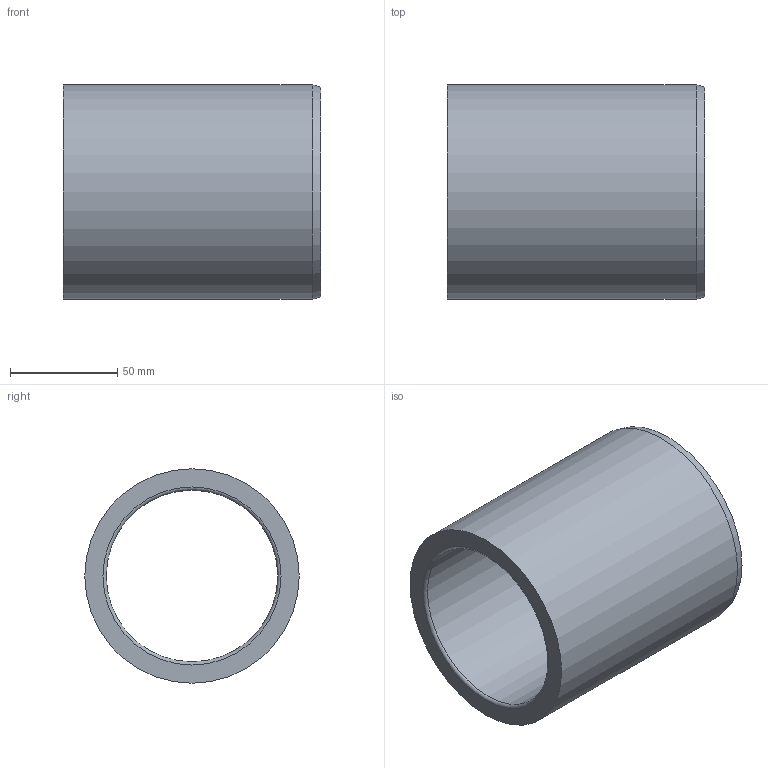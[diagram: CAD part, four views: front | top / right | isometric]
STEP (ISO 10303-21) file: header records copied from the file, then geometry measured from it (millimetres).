
FILE_DESCRIPTION(/* description */ ('Impex Ready, www.impex-ready.pl'),/* implementation_level */ '2;1');
FILE_NAME(/* name */ 'C:\Users\VIKKY\Nextcloud\SM\projekt 10 - części na stronę internetową\Pliki_3D_new\306 Tuleje BG04\306_BG04_STEP\BG04.80100120.ipt.step',/* time_stamp */ '2021-12-17T16:37:58+01:00',/* author */ ('SM'),/* organization */ (''),/* preprocessor_version */ 'ST-DEVELOPER v18.1',/* originating_system */ 'Autodesk Inventor 2021',/* authorisation */ '');
FILE_SCHEMA (('AUTOMOTIVE_DESIGN { 1 0 10303 214 3 1 1 }'));
Length unit declared in the file: millimetre
Products named in the file (1): BG04.80100120
Bounding box: 120 x 100 x 100 mm (x, y, z)
Volume: 338378.6 mm3; surface area: 72888.9 mm2
Topology: 1 solids, 1 shells, 7 faces, 14 edges, 9 vertices
Faces by surface type: torus 2, cylinder 2, plane 2, cone 1
Full cylindrical faces by diameter (mm): 80 x1, 100 x1
Entity records: 261 total; most frequent: DIRECTION 41, CARTESIAN_POINT 31, ORIENTED_EDGE 28, AXIS2_PLACEMENT_3D 19, EDGE_CURVE 14, CIRCLE 11, EDGE_LOOP 9, VERTEX_POINT 9
